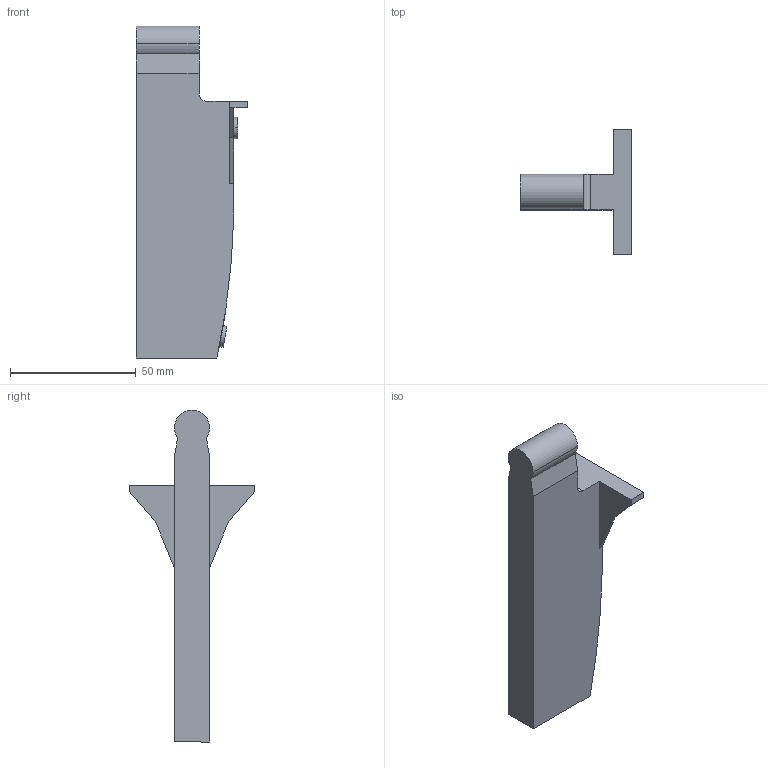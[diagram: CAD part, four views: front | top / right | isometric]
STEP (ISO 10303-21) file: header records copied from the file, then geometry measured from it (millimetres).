
FILE_DESCRIPTION (( 'STEP AP214' ), '1' );
FILE_NAME ('Halter_Magic-Optima_DWD-XP_H127.step', '2010-11-08T12:34:30', ( 'grass' ), ( '' ), 'SwSTEP 2.0', 'SolidWorks 2010', '' );
FILE_SCHEMA (( 'AUTOMOTIVE_DESIGN' ));
Length unit declared in the file: millimetre
Products named in the file (1): Halter_Magic-Optima_DWD-XP_H127
Bounding box: 44.3 x 50 x 132 mm (x, y, z)
Volume: 65282.2 mm3; surface area: 15438.6 mm2
Topology: 1 solids, 1 shells, 30 faces, 76 edges, 50 vertices
Faces by surface type: plane 21, cylinder 9
Entity records: 996 total; most frequent: CARTESIAN_POINT 223, DIRECTION 152, ORIENTED_EDGE 152, EDGE_CURVE 76, LINE 58, VECTOR 58, VERTEX_POINT 50, AXIS2_PLACEMENT_3D 47
